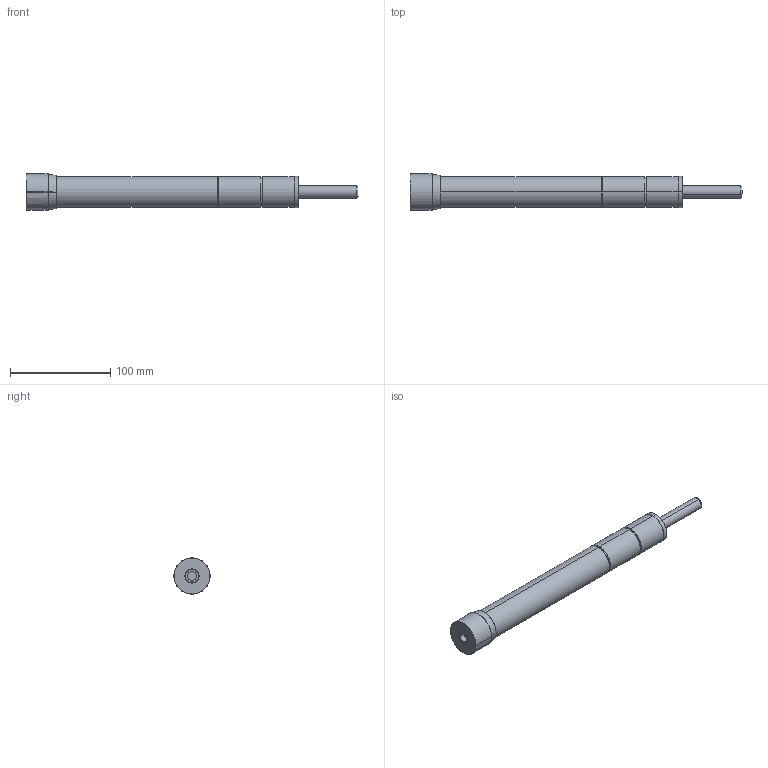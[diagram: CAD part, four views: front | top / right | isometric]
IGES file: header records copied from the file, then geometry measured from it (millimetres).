
Start section: SolidWorks IGES file using analytic representation for surfaces
Global section: file name: D:\IGS跡宒\HR3160.IGS,1; native system: 5HSolidWorks 2013; preprocessor: SolidWorks 2013; author: Administrator; date: 160406.154042; units: inch
Bounding box: 330.4 x 36 x 36 mm (x, y, z)
Surface area: 39515.6 mm2 (no closed solid volume)
Topology: 0 solids, 0 shells, 60 faces, 1552 edges, 1550 vertices
Faces by surface type: revolution 43, bspline 17
